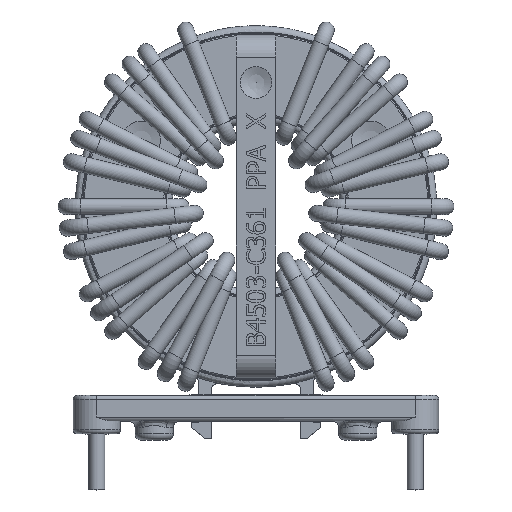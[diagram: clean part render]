
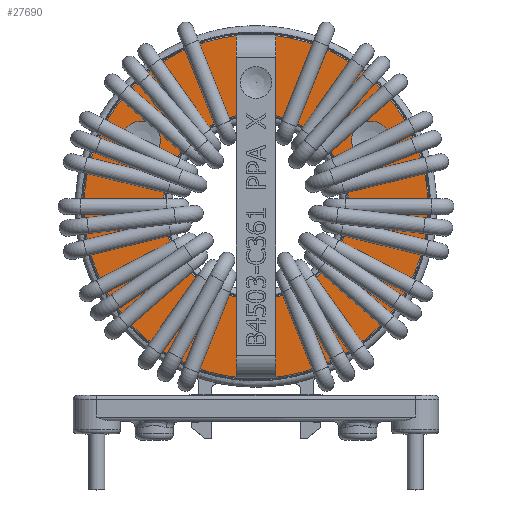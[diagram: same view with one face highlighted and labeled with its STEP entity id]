
A CAD part, top view. The second image highlights one B-rep face of the part: STEP entity #27690.
In plain terms, the highlighted planar face has unit normal (0, 0, 1).
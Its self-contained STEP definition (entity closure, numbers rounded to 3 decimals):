
#793=PLANE('',#29738);
#1059=FACE_BOUND('',#8639,.T.);
#1060=FACE_BOUND('',#8640,.T.);
#1061=FACE_BOUND('',#8641,.T.);
#2694=LINE('',#42381,#4671);
#2704=LINE('',#42414,#4681);
#2707=LINE('',#42461,#4684);
#2717=LINE('',#42496,#4694);
#3173=LINE('',#45668,#5150);
#3175=LINE('',#45671,#5152);
#4671=VECTOR('',#33234,10.);
#4681=VECTOR('',#33244,10.);
#4684=VECTOR('',#33251,10.);
#4694=VECTOR('',#33261,10.);
#5150=VECTOR('',#33987,10.);
#5152=VECTOR('',#33991,10.);
#7177=FACE_OUTER_BOUND('',#8638,.T.);
#8638=EDGE_LOOP('',(#22703));
#8639=EDGE_LOOP('',(#22704,#22705,#22706,#22707,#22708,#22709,#22710,#22711));
#8640=EDGE_LOOP('',(#22712));
#8641=EDGE_LOOP('',(#22713));
#9997=CIRCLE('',#29727,1.5);
#9999=CIRCLE('',#29730,1.5);
#10004=CIRCLE('',#29736,7.3);
#10005=CIRCLE('',#29737,7.3);
#10006=CIRCLE('',#29739,13.5);
#11447=VERTEX_POINT('',#42346);
#11449=VERTEX_POINT('',#42350);
#11456=VERTEX_POINT('',#42366);
#11462=VERTEX_POINT('',#42378);
#11463=VERTEX_POINT('',#42380);
#11471=VERTEX_POINT('',#42458);
#11476=VERTEX_POINT('',#42493);
#11477=VERTEX_POINT('',#42495);
#12213=VERTEX_POINT('',#47430);
#12215=VERTEX_POINT('',#47435);
#12219=VERTEX_POINT('',#47448);
#14677=EDGE_CURVE('',#11463,#11462,#2694,.T.);
#14689=EDGE_CURVE('',#11456,#11449,#2704,.T.);
#14695=EDGE_CURVE('',#11447,#11471,#2707,.T.);
#14707=EDGE_CURVE('',#11477,#11476,#2717,.T.);
#15428=EDGE_CURVE('',#11456,#11471,#3173,.T.);
#15430=EDGE_CURVE('',#11477,#11462,#3175,.T.);
#15835=EDGE_CURVE('',#12213,#12213,#9997,.T.);
#15837=EDGE_CURVE('',#12215,#12215,#9999,.T.);
#15842=EDGE_CURVE('',#11447,#11476,#10004,.T.);
#15843=EDGE_CURVE('',#11463,#11449,#10005,.T.);
#15844=EDGE_CURVE('',#12219,#12219,#10006,.T.);
#22703=ORIENTED_EDGE('',*,*,#15844,.F.);
#22704=ORIENTED_EDGE('',*,*,#14689,.T.);
#22705=ORIENTED_EDGE('',*,*,#15843,.F.);
#22706=ORIENTED_EDGE('',*,*,#14677,.T.);
#22707=ORIENTED_EDGE('',*,*,#15430,.F.);
#22708=ORIENTED_EDGE('',*,*,#14707,.T.);
#22709=ORIENTED_EDGE('',*,*,#15842,.F.);
#22710=ORIENTED_EDGE('',*,*,#14695,.T.);
#22711=ORIENTED_EDGE('',*,*,#15428,.F.);
#22712=ORIENTED_EDGE('',*,*,#15835,.T.);
#22713=ORIENTED_EDGE('',*,*,#15837,.T.);
#27690=ADVANCED_FACE('',(#7177,#1059,#1060,#1061),#793,.F.);
#29727=AXIS2_PLACEMENT_3D('',#47431,#34772,#34773);
#29730=AXIS2_PLACEMENT_3D('',#47436,#34778,#34779);
#29736=AXIS2_PLACEMENT_3D('',#47445,#34790,#34791);
#29737=AXIS2_PLACEMENT_3D('',#47446,#34792,#34793);
#29738=AXIS2_PLACEMENT_3D('',#47447,#34794,#34795);
#29739=AXIS2_PLACEMENT_3D('',#47449,#34796,#34797);
#33234=DIRECTION('',(0.,-1.,0.));
#33244=DIRECTION('',(0.,-1.,0.));
#33251=DIRECTION('',(0.,1.,0.));
#33261=DIRECTION('',(0.,1.,0.));
#33987=DIRECTION('',(-1.,0.,0.));
#33991=DIRECTION('',(1.,0.,0.));
#34772=DIRECTION('center_axis',(0.,0.,
-1.));
#34773=DIRECTION('ref_axis',(1.,0.,0.));
#34778=DIRECTION('center_axis',(0.,0.,
-1.));
#34779=DIRECTION('ref_axis',(1.,0.,0.));
#34790=DIRECTION('center_axis',(0.,0.,
1.));
#34791=DIRECTION('ref_axis',(0.,-1.,0.));
#34792=DIRECTION('center_axis',(0.,0.,
1.));
#34793=DIRECTION('ref_axis',(0.,-1.,0.));
#34794=DIRECTION('center_axis',(0.,0.,
-1.));
#34795=DIRECTION('ref_axis',(0.,-1.,0.));
#34796=DIRECTION('center_axis',(0.,0.,
-1.));
#34797=DIRECTION('ref_axis',(0.,-1.,0.));
#42346=CARTESIAN_POINT('',(-1.55,23.984,6.4));
#42350=CARTESIAN_POINT('',(1.55,23.984,6.4));
#42366=CARTESIAN_POINT('',(1.55,30.25,6.4));
#42378=CARTESIAN_POINT('',(1.55,3.45,6.4));
#42380=CARTESIAN_POINT('',(1.55,9.716,6.4));
#42381=CARTESIAN_POINT('',(1.55,23.6,6.4));
#42414=CARTESIAN_POINT('',(1.55,23.6,6.4));
#42458=CARTESIAN_POINT('',(-1.55,30.25,6.4));
#42461=CARTESIAN_POINT('',(-1.55,10.1,6.4));
#42493=CARTESIAN_POINT('',(-1.55,9.716,6.4));
#42495=CARTESIAN_POINT('',(-1.55,3.45,6.4));
#42496=CARTESIAN_POINT('',(-1.55,10.1,6.4));
#45668=CARTESIAN_POINT('',(-0.775,30.25,6.4));
#45671=CARTESIAN_POINT('',(0.775,3.45,6.4));
#47430=CARTESIAN_POINT('',(7.708,21.3,6.4));
#47431=CARTESIAN_POINT('Origin',(9.007,22.05,6.4));
#47435=CARTESIAN_POINT('',(-7.708,21.3,6.4));
#47436=CARTESIAN_POINT('Origin',(-9.007,22.05,6.4));
#47445=CARTESIAN_POINT('Origin',(0.,16.85,6.4));
#47446=CARTESIAN_POINT('Origin',(0.,16.85,6.4));
#47447=CARTESIAN_POINT('Origin',(0.,16.85,6.4));
#47448=CARTESIAN_POINT('',(0.,30.35,6.4));
#47449=CARTESIAN_POINT('Origin',(0.,16.85,6.4));
